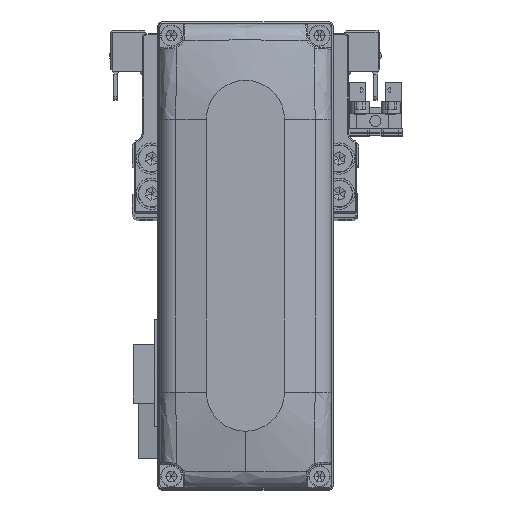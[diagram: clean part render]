
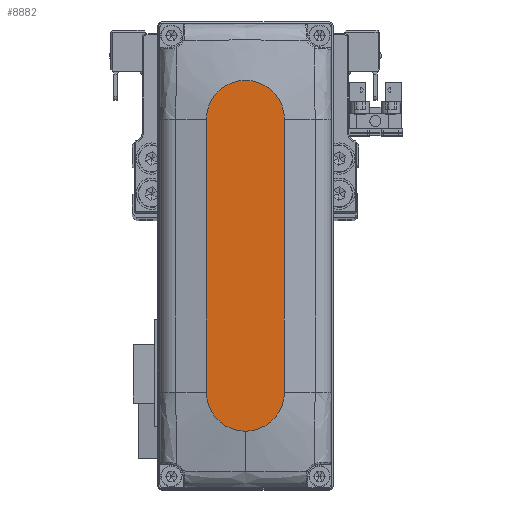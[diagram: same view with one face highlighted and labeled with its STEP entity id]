
A CAD part, top view. The second image highlights one B-rep face of the part: STEP entity #8882.
In plain terms, the highlighted planar face has unit normal (0, 0, 1).
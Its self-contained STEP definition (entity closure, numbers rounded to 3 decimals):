
#302 = CARTESIAN_POINT ( 'NONE',  ( 45., 0., 28. ) ) ;
#503 = DIRECTION ( 'NONE',  ( 1., 0., 0. ) ) ;
#631 = AXIS2_PLACEMENT_3D ( 'NONE', #30532, #3968, #15791 ) ;
#1572 = EDGE_CURVE ( 'NONE', #5858, #35655, #7818, .T. ) ;
#1628 = ORIENTED_EDGE ( 'NONE', *, *, #26868, .T. ) ;
#1653 = ORIENTED_EDGE ( 'NONE', *, *, #24881, .T. ) ;
#3968 = DIRECTION ( 'NONE',  ( 0., 0., 1. ) ) ;
#4034 = CARTESIAN_POINT ( 'NONE',  ( -35., 10., 28. ) ) ;
#4182 = EDGE_CURVE ( 'NONE', #19776, #21277, #37693, .T. ) ;
#4939 = EDGE_CURVE ( 'NONE', #13626, #19776, #36514, .T. ) ;
#5507 = LINE ( 'NONE', #17329, #29992 ) ;
#5858 = VERTEX_POINT ( 'NONE', #4034 ) ;
#6418 = VECTOR ( 'NONE', #9696, 1000. ) ;
#6861 = FACE_OUTER_BOUND ( 'NONE', #34359, .T. ) ;
#7159 = DIRECTION ( 'NONE',  ( 0., 0., 1. ) ) ;
#7357 = DIRECTION ( 'NONE',  ( 0., 0., 1. ) ) ;
#7769 = ORIENTED_EDGE ( 'NONE', *, *, #4182, .T. ) ;
#7818 = CIRCLE ( 'NONE', #29500, 10. ) ;
#8882 = ADVANCED_FACE ( 'NONE', ( #6861 ), #18702, .T. ) ;
#9696 = DIRECTION ( 'NONE',  ( -1., 0., 0. ) ) ;
#13626 = VERTEX_POINT ( 'NONE', #25624 ) ;
#15251 = CARTESIAN_POINT ( 'NONE',  ( 35., 0., 28. ) ) ;
#15791 = DIRECTION ( 'NONE',  ( 1., 0., 0. ) ) ;
#17329 = CARTESIAN_POINT ( 'NONE',  ( -35., -10., 28. ) ) ;
#18702 = PLANE ( 'NONE',  #631 ) ;
#18995 = DIRECTION ( 'NONE',  ( 1., 0., 0. ) ) ;
#19191 = DIRECTION ( 'NONE',  ( 1., 0., 0. ) ) ;
#19776 = VERTEX_POINT ( 'NONE', #302 ) ;
#19793 = AXIS2_PLACEMENT_3D ( 'NONE', #15251, #27072, #503 ) ;
#20780 = ORIENTED_EDGE ( 'NONE', *, *, #1572, .T. ) ;
#20996 = AXIS2_PLACEMENT_3D ( 'NONE', #33725, #7159, #18995 ) ;
#21023 = ORIENTED_EDGE ( 'NONE', *, *, #4939, .T. ) ;
#21277 = VERTEX_POINT ( 'NONE', #28777 ) ;
#24440 = LINE ( 'NONE', #36260, #6418 ) ;
#24881 = EDGE_CURVE ( 'NONE', #35655, #13626, #5507, .T. ) ;
#25624 = CARTESIAN_POINT ( 'NONE',  ( 35., -10., 28. ) ) ;
#26868 = EDGE_CURVE ( 'NONE', #21277, #5858, #24440, .T. ) ;
#27072 = DIRECTION ( 'NONE',  ( 0., 0., 1. ) ) ;
#28777 = CARTESIAN_POINT ( 'NONE',  ( 35., 10., 28. ) ) ;
#29160 = DIRECTION ( 'NONE',  ( 1., 0., 0. ) ) ;
#29500 = AXIS2_PLACEMENT_3D ( 'NONE', #33932, #7357, #19191 ) ;
#29992 = VECTOR ( 'NONE', #29160, 1000. ) ;
#30532 = CARTESIAN_POINT ( 'NONE',  ( 0., 0., 28. ) ) ;
#32392 = CARTESIAN_POINT ( 'NONE',  ( -35., -10., 28. ) ) ;
#33725 = CARTESIAN_POINT ( 'NONE',  ( 35., 0., 28. ) ) ;
#33932 = CARTESIAN_POINT ( 'NONE',  ( -35., 0., 28. ) ) ;
#34359 = EDGE_LOOP ( 'NONE', ( #1628, #20780, #1653, #21023, #7769 ) ) ;
#35655 = VERTEX_POINT ( 'NONE', #32392 ) ;
#36260 = CARTESIAN_POINT ( 'NONE',  ( -35., 10., 28. ) ) ;
#36514 = CIRCLE ( 'NONE', #19793, 10. ) ;
#37693 = CIRCLE ( 'NONE', #20996, 10. ) ;
